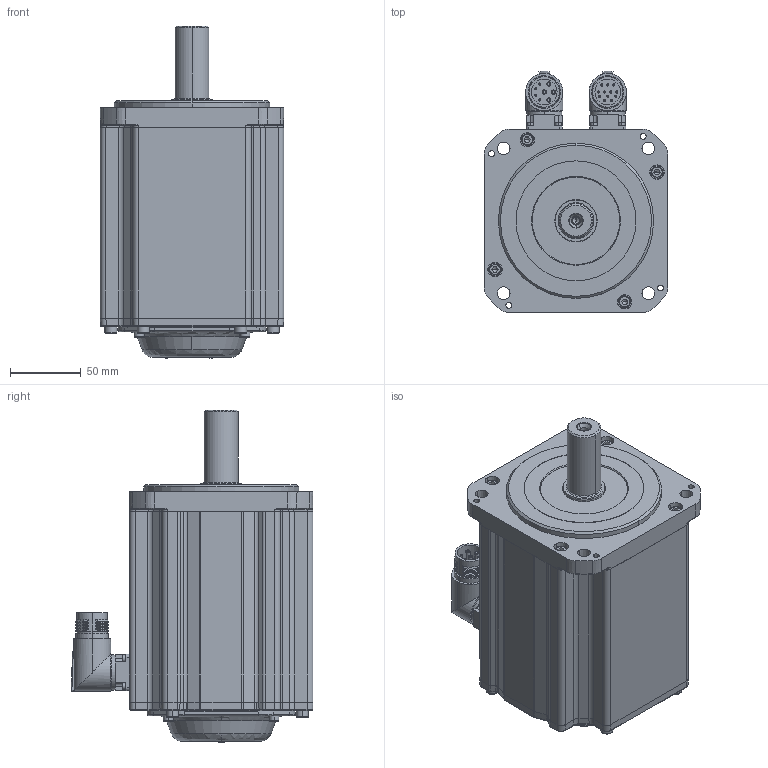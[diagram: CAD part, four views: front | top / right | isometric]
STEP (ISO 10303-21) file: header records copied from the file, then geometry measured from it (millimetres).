
FILE_DESCRIPTION (( 'STEP AP203' ), '1' );
FILE_NAME ('MC20-130-3M20-N202-0¡õPL-NNNN.STEP', '2025-07-29T15:05:40', ( '' ), ( '' ), 'SwSTEP 2.0', 'SolidWorks 2014', '' );
FILE_SCHEMA (( 'CONFIG_CONTROL_DESIGN' ));
Length unit declared in the file: millimetre
Products named in the file (1): MC20-130-3M20-N202-0¡õPL-NNNN
Bounding box: 130 x 171.35 x 235.3 mm (x, y, z)
Volume: 2591062.8 mm3; surface area: 276039.5 mm2
Topology: 28 solids, 28 shells, 2022 faces, 4794 edges, 2857 vertices
Faces by surface type: plane 733, cylinder 567, cone 358, bspline 204, torus 148, sphere 12
Entity records: 62107 total; most frequent: CARTESIAN_POINT 16808, DIRECTION 9523, ORIENTED_EDGE 9364, EDGE_CURVE 4682, AXIS2_PLACEMENT_3D 3694, VERTEX_POINT 2857, EDGE_LOOP 2269, VECTOR 2135
